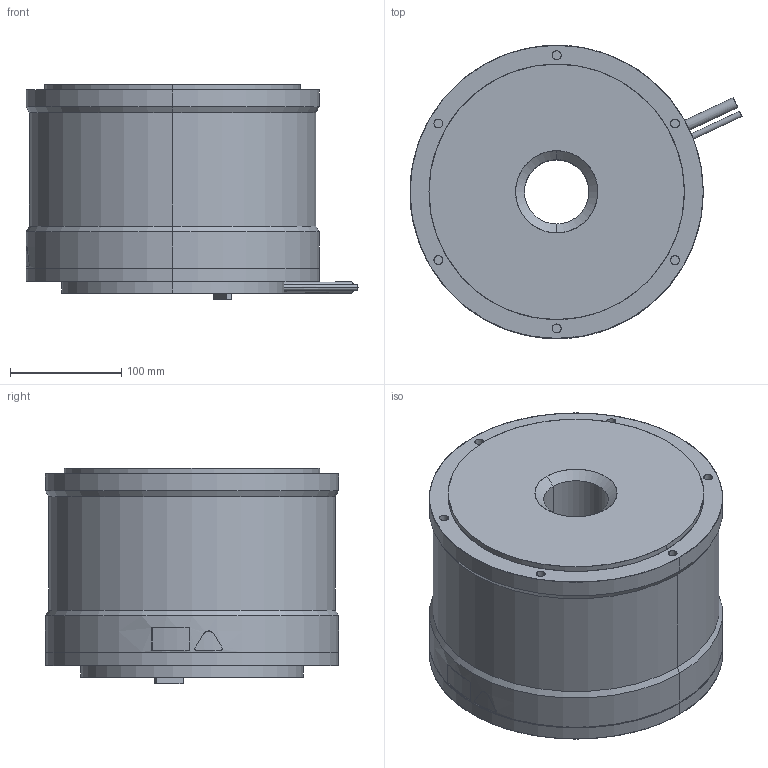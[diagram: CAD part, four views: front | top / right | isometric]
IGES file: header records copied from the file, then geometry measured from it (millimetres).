
Start section: SolidWorks IGES file using analytic representation for surfaces
Bounding box: 298.93 x 264 x 194 mm (x, y, z)
Surface area: 305746.3 mm2 (no closed solid volume)
Topology: 0 solids, 0 shells, 203 faces, 4730 edges, 4730 vertices
Faces by surface type: revolution 128, bspline 75
